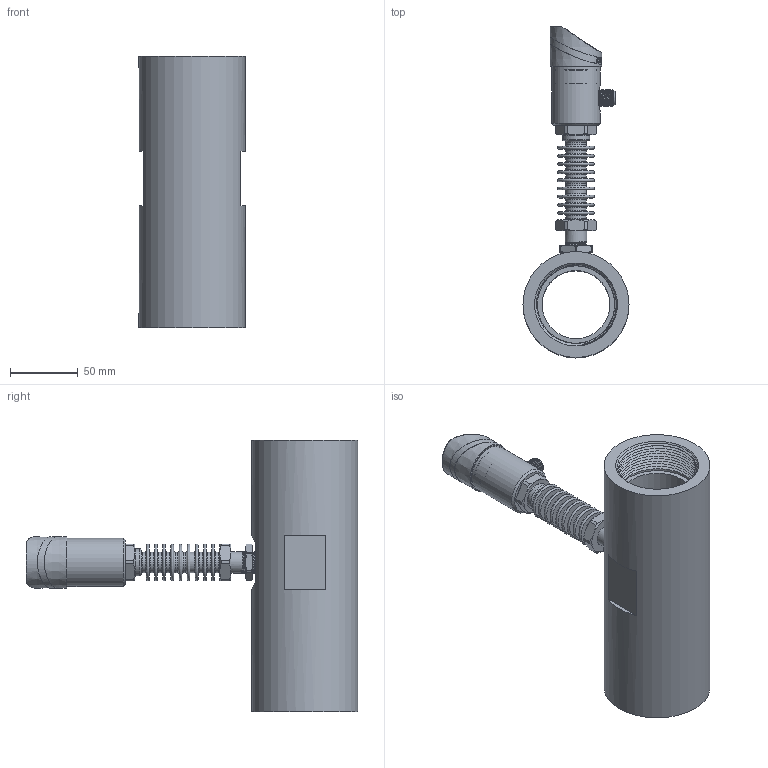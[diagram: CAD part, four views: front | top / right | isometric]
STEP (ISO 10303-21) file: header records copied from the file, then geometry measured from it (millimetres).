
FILE_DESCRIPTION( (''), '2;1');
FILE_NAME( 'QTKE_DN50_female-thread_high-temp.step', '2024-10-15T13:39:32+08:00', (''), (''), '', '', '');
FILE_SCHEMA (('AUTOMOTIVE_DESIGN { 1 0 10303 214 3 1 1 1 }'));
Length unit declared in the file: millimetre
Products named in the file (1): QTKE DN50_female-thread_high-temp
Bounding box: 78 x 244 x 200 mm (x, y, z)
Volume: 558561.2 mm3; surface area: 141093 mm2
Topology: 5 solids, 5 shells, 1138 faces, 2947 edges, 1917 vertices
Faces by surface type: plane 541, cylinder 171, extrusion 160, cone 108, bspline 77, torus 60, sphere 21
Full cylindrical faces by diameter (mm): 1.689 x1, 2 x1, 2.7 x6, 3.5 x5, 12 x1, 13 x1, 15 x11, 15.9 x1, 20 x1, 23 x3, 26 x5, 31.7 x1, 32 x1, 34 x1, 34.2 x1, 35.5 x2, 50 x1, 57 x1, 78 x1
Entity records: 50573 total; most frequent: CARTESIAN_POINT 20189, ORIENTED_EDGE 5502, DIRECTION 4707, EDGE_CURVE 2751, VERTEX_POINT 1856, AXIS2_PLACEMENT_3D 1578, VECTOR 1551, LINE 1391
